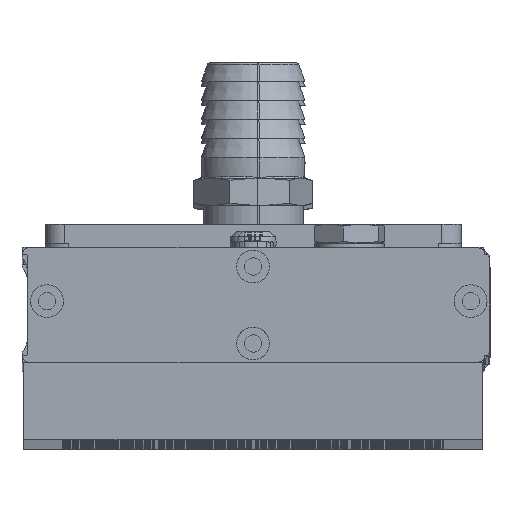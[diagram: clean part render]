
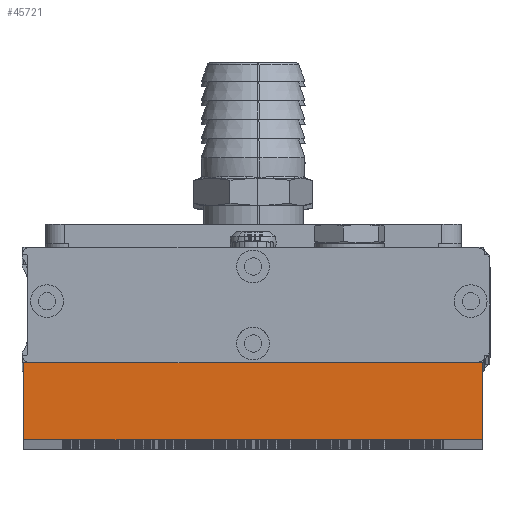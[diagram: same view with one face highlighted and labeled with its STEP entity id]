
A CAD part, top view. The second image highlights one B-rep face of the part: STEP entity #45721.
In plain terms, the highlighted planar face has unit normal (0, 0, 1).
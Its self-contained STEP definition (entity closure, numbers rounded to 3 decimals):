
#1462 = CARTESIAN_POINT ( 'NONE',  ( -82.6, -71.3, 697. ) ) ;
#4063 = CARTESIAN_POINT ( 'NONE',  ( -82.6, -51.3, 697. ) ) ;
#5739 = EDGE_CURVE ( 'NONE', #11342, #26318, #14955, .T. ) ;
#8153 = DIRECTION ( 'NONE',  ( 1., 0., 0. ) ) ;
#8775 = EDGE_LOOP ( 'NONE', ( #19377, #36668, #46887, #26381 ) ) ;
#9315 = EDGE_CURVE ( 'NONE', #22765, #19079, #32196, .T. ) ;
#9709 = VECTOR ( 'NONE', #8153, 1000. ) ;
#9783 = CARTESIAN_POINT ( 'NONE',  ( 36.4, -71.3, 697. ) ) ;
#10984 = LINE ( 'NONE', #17166, #31721 ) ;
#11342 = VERTEX_POINT ( 'NONE', #19326 ) ;
#11980 = DIRECTION ( 'NONE',  ( 0., 1., 0. ) ) ;
#12086 = CARTESIAN_POINT ( 'NONE',  ( 36.4, -51.3, 697. ) ) ;
#12627 = CARTESIAN_POINT ( 'NONE',  ( -82.6, -51.3, 697. ) ) ;
#14553 = VECTOR ( 'NONE', #31657, 1000. ) ;
#14955 = LINE ( 'NONE', #1462, #36912 ) ;
#16261 = DIRECTION ( 'NONE',  ( 1., 0., 0. ) ) ;
#17166 = CARTESIAN_POINT ( 'NONE',  ( -82.6, -51.3, 697. ) ) ;
#19079 = VERTEX_POINT ( 'NONE', #12086 ) ;
#19326 = CARTESIAN_POINT ( 'NONE',  ( -82.6, -71.3, 697. ) ) ;
#19377 = ORIENTED_EDGE ( 'NONE', *, *, #5739, .T. ) ;
#20881 = LINE ( 'NONE', #46341, #14553 ) ;
#22765 = VERTEX_POINT ( 'NONE', #12627 ) ;
#25946 = PLANE ( 'NONE',  #44932 ) ;
#26318 = VERTEX_POINT ( 'NONE', #9783 ) ;
#26381 = ORIENTED_EDGE ( 'NONE', *, *, #34987, .T. ) ;
#28476 = DIRECTION ( 'NONE',  ( 0., -1., 0. ) ) ;
#30216 = CARTESIAN_POINT ( 'NONE',  ( -82.6, -51.3, 697. ) ) ;
#31657 = DIRECTION ( 'NONE',  ( 0., -1., 0. ) ) ;
#31721 = VECTOR ( 'NONE', #28476, 1000. ) ;
#32196 = LINE ( 'NONE', #30216, #9709 ) ;
#33724 = DIRECTION ( 'NONE',  ( 0., 0., -1. ) ) ;
#34008 = EDGE_CURVE ( 'NONE', #19079, #26318, #20881, .T. ) ;
#34987 = EDGE_CURVE ( 'NONE', #22765, #11342, #10984, .T. ) ;
#36077 = FACE_OUTER_BOUND ( 'NONE', #8775, .T. ) ;
#36668 = ORIENTED_EDGE ( 'NONE', *, *, #34008, .F. ) ;
#36912 = VECTOR ( 'NONE', #16261, 1000. ) ;
#44932 = AXIS2_PLACEMENT_3D ( 'NONE', #4063, #33724, #11980 ) ;
#45721 = ADVANCED_FACE ( 'NONE', ( #36077 ), #25946, .F. ) ;
#46341 = CARTESIAN_POINT ( 'NONE',  ( 36.4, -51.3, 697. ) ) ;
#46887 = ORIENTED_EDGE ( 'NONE', *, *, #9315, .F. ) ;
